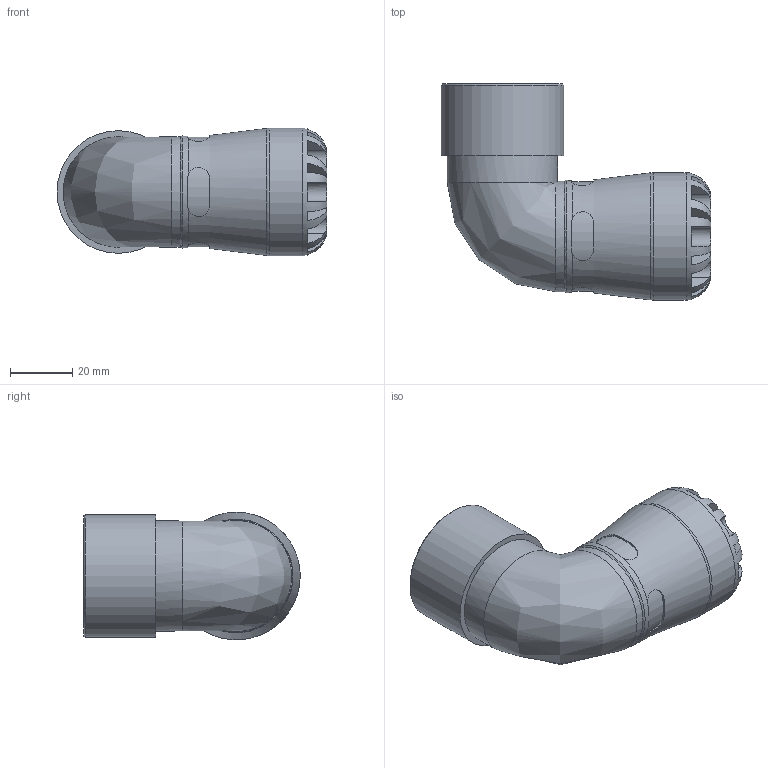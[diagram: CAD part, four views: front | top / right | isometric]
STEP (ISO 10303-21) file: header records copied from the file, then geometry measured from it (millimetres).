
FILE_DESCRIPTION(/* description */ ('PLASSON 90° ELBOW WITH THREADED FEMALE OFFTAKE 20X1" SERIES 1'),/* implementation_level */ '2;1');
FILE_NAME(/* name */ 'C:\Dropbox\KIMPROJECTS-Inventor\99-16-3568-Processing\S1\1015\101500020010_191500020010.ipt.stp',/* time_stamp */ '2017-07-30T11:51:54+03:00',/* author */ ('KIM'),/* organization */ (''),/* preprocessor_version */ 'ST-DEVELOPER v15.6',/* originating_system */ 'Autodesk Inventor 2015',/* authorisation */ '');
FILE_SCHEMA (('AUTOMOTIVE_DESIGN { 1 0 10303 214 3 1 1 }'));
Length unit declared in the file: millimetre
Products named in the file (1): 101500020010_191500020010
Bounding box: 86.69 x 69.5 x 41 mm (x, y, z)
Volume: 64899.2 mm3; surface area: 24294 mm2
Topology: 1 solids, 1 shells, 106 faces, 273 edges, 170 vertices
Faces by surface type: plane 61, cylinder 37, torus 5, cone 2, bspline 1
Full cylindrical faces by diameter (mm): 20 x1, 27.262 x2, 30.291 x1, 35.44 x2, 36.08 x1, 39.378 x1, 41 x1
Entity records: 3904 total; most frequent: CARTESIAN_POINT 1482, ORIENTED_EDGE 498, DIRECTION 486, EDGE_CURVE 249, AXIS2_PLACEMENT_3D 203, VERTEX_POINT 164, EDGE_LOOP 127, FACE_OUTER_BOUND 106
